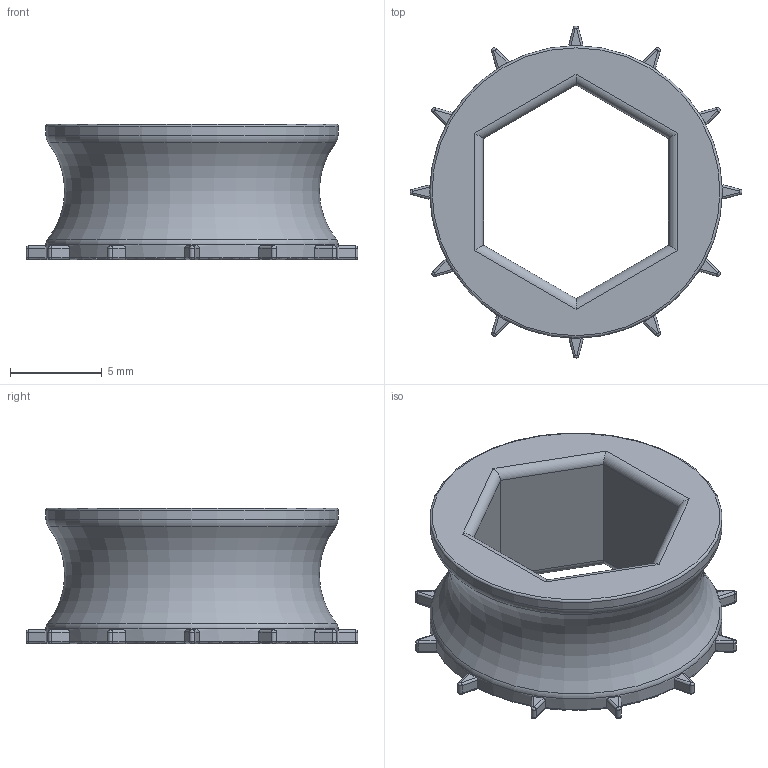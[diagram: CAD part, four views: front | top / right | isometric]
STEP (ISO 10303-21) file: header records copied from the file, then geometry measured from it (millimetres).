
FILE_DESCRIPTION(/* description */ (''),/* implementation_level */ '2;1');
FILE_NAME(/* name */ 'G:\~~Autodesk Inventor File Backup~~\Wolverine Parts by Kamel Ikhlef\My Inventor Drawn Telecine Parts\My USED STP Files\Toothed_Pulley_S8_Capstan_Mine_15.900dia_NO Brass Inserts_1.stp',/* time_stamp */ '2020-02-16T20:23:54+11:00',/* author */ ('bruce'),/* organization */ (''),/* preprocessor_version */ 'ST-DEVELOPER v17.2',/* originating_system */ 'Autodesk Inventor 2019',/* authorisation */ '');
FILE_SCHEMA (('AUTOMOTIVE_DESIGN { 1 0 10303 214 3 1 1 }'));
Length unit declared in the file: millimetre
Products named in the file (1): Toothed_Pulley_S8_Capstan_Mine_Rotated_Smaller_15.900dia_NO Brass Ins
erts_1
Bounding box: 18.06 x 18.06 x 7.36 mm (x, y, z)
Volume: 634.2 mm3; surface area: 848.9 mm2
Topology: 1 solids, 1 shells, 158 faces, 385 edges, 229 vertices
Faces by surface type: cylinder 74, plane 44, bspline 24, torus 16
Full cylindrical faces by diameter (mm): 15.9 x2
Entity records: 5303 total; most frequent: CARTESIAN_POINT 1637, ORIENTED_EDGE 770, DIRECTION 768, EDGE_CURVE 385, AXIS2_PLACEMENT_3D 296, VERTEX_POINT 229, LINE 176, VECTOR 176
